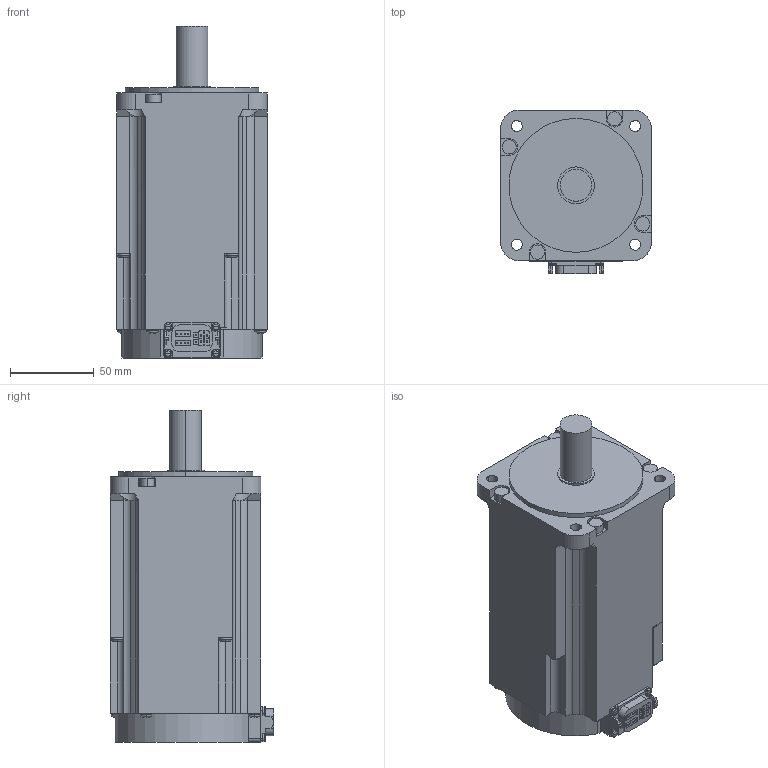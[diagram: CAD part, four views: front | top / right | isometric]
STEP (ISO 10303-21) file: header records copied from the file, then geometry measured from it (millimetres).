
FILE_DESCRIPTION((''),'2;1');
FILE_NAME('PRT0004','2019-01-16T',('XE90682'),(''),'CREO PARAMETRIC BY PTC INC, 2016380','CREO PARAMETRIC BY PTC INC, 2016380','');
FILE_SCHEMA(('CONFIG_CONTROL_DESIGN'));
Length unit declared in the file: millimetre
Products named in the file (1): PRT0004
Bounding box: 90 x 97.65 x 198.3 mm (x, y, z)
Volume: 1116792.2 mm3; surface area: 74341.2 mm2
Topology: 1 solids, 1 shells, 397 faces, 1028 edges, 652 vertices
Faces by surface type: plane 224, cylinder 117, torus 24, sphere 24, cone 8
Entity records: 12071 total; most frequent: CARTESIAN_POINT 2181, DIRECTION 2101, ORIENTED_EDGE 2008, EDGE_CURVE 1004, AXIS2_PLACEMENT_3D 716, VECTOR 669, LINE 669, VERTEX_POINT 652
